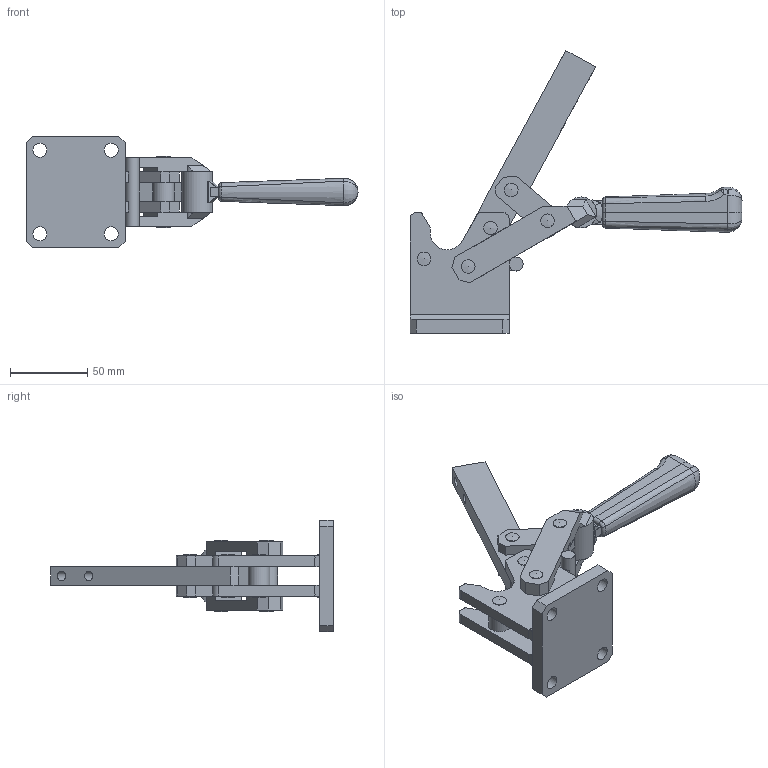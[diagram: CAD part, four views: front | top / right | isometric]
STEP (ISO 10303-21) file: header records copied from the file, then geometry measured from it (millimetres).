
FILE_DESCRIPTION(/* description */ (''),/* implementation_level */ '2;1');
FILE_NAME(/* name */ '/Users/eric/Desktop/Abco 2213 Open:Ouverte.stp',/* time_stamp */ '2014-07-29T19:00:05+10:00',/* author */ (''),/* organization */ (''),/* preprocessor_version */ 'ST-DEVELOPER v14.6',/* originating_system */ '',/* authorisation */ '');
FILE_SCHEMA (('AUTOMOTIVE_DESIGN { 1 2 10303 214 1 1 1 1 }'));
Length unit declared in the file: centimetre
Products named in the file (1): 1234-K789
Bounding box: 214.44 x 182.68 x 72 mm (x, y, z)
Volume: 210007.9 mm3; surface area: 92370.2 mm2
Topology: 34 solids, 34 shells, 359 faces, 838 edges, 530 vertices
Faces by surface type: plane 211, cylinder 88, bspline 24, cone 20, sphere 10, torus 6
Full cylindrical faces by diameter (mm): 6 x2, 8 x24, 9 x5, 10 x18, 14 x3, 20 x1
Entity records: 10323 total; most frequent: CARTESIAN_POINT 2525, DIRECTION 1566, ORIENTED_EDGE 1486, EDGE_CURVE 743, AXIS2_PLACEMENT_3D 547, VERTEX_POINT 508, LINE 472, VECTOR 472
